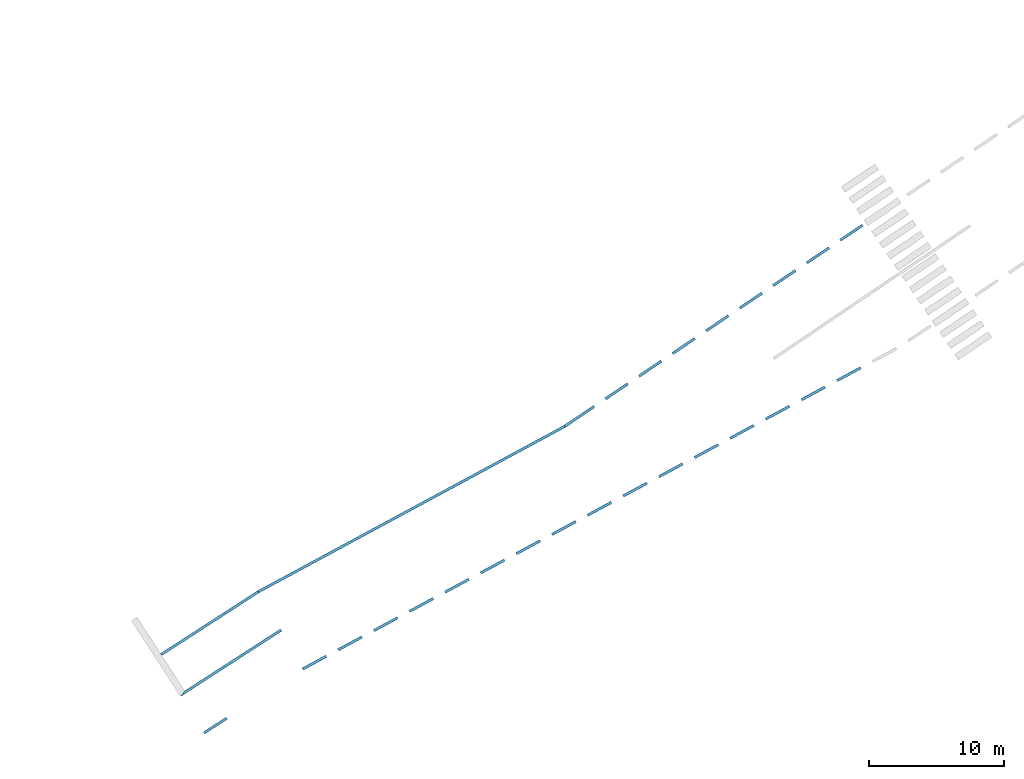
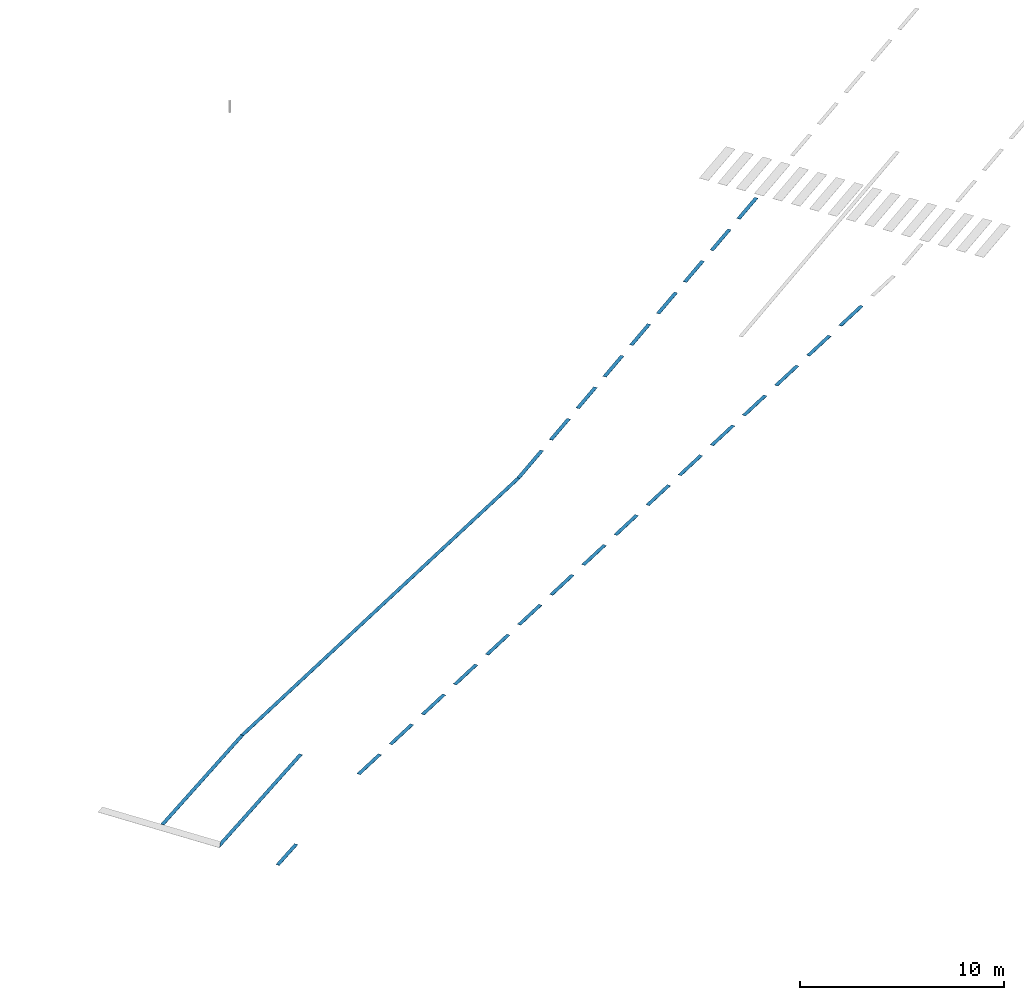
# One storey, part 55 of 157: 29 walls.
"""IFC2X3 building model written with IfcOpenShell, lengths in millimetres."""

from ifc_helpers import new_model, entity, si_unit, converted_unit, derived_unit, direction, frame, frame_2d, origin, origin_2d_with_axis, place, context, subcontext, project, spatial, polyline, rectangle, outline, extrude, material, type_object, element, save


model = new_model("IFC2X3")

# Units and contexts
model_context = context("Model", 3, precision=0.01, world=origin(), true_north=direction((6.123031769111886e-17, 1.0)))
body_context = subcontext(model_context, "Body", "Model", "MODEL_VIEW")
ifc_project = project(units=[si_unit("LENGTHUNIT", "METRE", prefix="MILLI"), si_unit("AREAUNIT", "SQUARE_METRE"), si_unit("VOLUMEUNIT", "CUBIC_METRE"), converted_unit("PLANEANGLEUNIT", "DEGREE", entity("IfcRatioMeasure", 0.017453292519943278), si_unit("PLANEANGLEUNIT", "RADIAN"), dimensions=[0, 0, 0, 0, 0, 0, 0]), si_unit("MASSUNIT", "GRAM", prefix="KILO"), derived_unit("MASSDENSITYUNIT", [(si_unit("MASSUNIT", "GRAM", prefix="KILO"), 1), (si_unit("LENGTHUNIT", "METRE"), -3)]), derived_unit("MOMENTOFINERTIAUNIT", [(si_unit("LENGTHUNIT", "METRE"), 4)]), si_unit("TIMEUNIT", "SECOND"), si_unit("FREQUENCYUNIT", "HERTZ"), si_unit("THERMODYNAMICTEMPERATUREUNIT", "DEGREE_CELSIUS"), derived_unit("THERMALTRANSMITTANCEUNIT", [(si_unit("MASSUNIT", "GRAM", prefix="KILO"), 1), (si_unit("THERMODYNAMICTEMPERATUREUNIT", "KELVIN"), -1), (si_unit("TIMEUNIT", "SECOND"), -3)]), derived_unit("THERMALCONDUCTANCEUNIT", [(si_unit("MASSUNIT", "GRAM", prefix="KILO"), 1), (si_unit("LENGTHUNIT", "METRE"), 1), (si_unit("THERMODYNAMICTEMPERATUREUNIT", "KELVIN"), -1), (si_unit("TIMEUNIT", "SECOND"), -3)]), derived_unit("VOLUMETRICFLOWRATEUNIT", [(si_unit("LENGTHUNIT", "METRE"), 3), (si_unit("TIMEUNIT", "SECOND"), -1)]), derived_unit("MASSFLOWRATEUNIT", [(si_unit("MASSUNIT", "GRAM", prefix="KILO"), 1), (si_unit("TIMEUNIT", "SECOND"), -1)]), derived_unit("ROTATIONALFREQUENCYUNIT", [(si_unit("TIMEUNIT", "SECOND"), -1)]), si_unit("ELECTRICCURRENTUNIT", "AMPERE"), si_unit("ELECTRICVOLTAGEUNIT", "VOLT"), si_unit("POWERUNIT", "WATT"), converted_unit("FORCEUNIT", "KIP", entity("IfcRatioMeasure", 2.088543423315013e-05), si_unit("FORCEUNIT", "NEWTON"), dimensions=[1, 1, -2, 0, 0, 0, 0]), si_unit("ILLUMINANCEUNIT", "LUX"), si_unit("LUMINOUSFLUXUNIT", "LUMEN"), si_unit("LUMINOUSINTENSITYUNIT", "CANDELA"), derived_unit("USERDEFINED", [(si_unit("MASSUNIT", "GRAM", prefix="KILO"), -1), (si_unit("LENGTHUNIT", "METRE"), -2), (si_unit("TIMEUNIT", "SECOND"), 3), (si_unit("LUMINOUSFLUXUNIT", "LUMEN"), 1)]), derived_unit("USERDEFINED", [(si_unit("MASSUNIT", "GRAM", prefix="KILO"), 1), (si_unit("LENGTHUNIT", "METRE"), 3), (si_unit("TIMEUNIT", "SECOND"), -3), (si_unit("ELECTRICCURRENTUNIT", "AMPERE"), -2)]), derived_unit("USERDEFINED", [(si_unit("LENGTHUNIT", "METRE"), 2), (si_unit("TIMEUNIT", "SECOND"), -2)]), derived_unit("SOUNDPOWERUNIT", [(si_unit("MASSUNIT", "GRAM", prefix="KILO"), 1), (si_unit("LENGTHUNIT", "METRE"), 2), (si_unit("TIMEUNIT", "SECOND"), -3)]), derived_unit("SOUNDPRESSUREUNIT", [(si_unit("MASSUNIT", "GRAM", prefix="KILO"), 1), (si_unit("LENGTHUNIT", "METRE"), -1), (si_unit("TIMEUNIT", "SECOND"), -2)]), derived_unit("LINEARVELOCITYUNIT", [(si_unit("LENGTHUNIT", "METRE"), 1), (si_unit("TIMEUNIT", "SECOND"), -1)]), si_unit("PRESSUREUNIT", "PASCAL"), derived_unit("USERDEFINED", [(si_unit("LENGTHUNIT", "METRE"), -2), (si_unit("MASSUNIT", "GRAM", prefix="KILO"), 1), (si_unit("TIMEUNIT", "SECOND"), -2)]), derived_unit("LINEARFORCEUNIT", [(si_unit("MASSUNIT", "GRAM", prefix="KILO"), 1), (si_unit("LENGTHUNIT", "METRE"), 1), (si_unit("TIMEUNIT", "SECOND"), -2), (si_unit("LENGTHUNIT", "METRE"), -1)]), derived_unit("PLANARFORCEUNIT", [(si_unit("MASSUNIT", "GRAM", prefix="KILO"), 1), (si_unit("LENGTHUNIT", "METRE"), 1), (si_unit("TIMEUNIT", "SECOND"), -2), (si_unit("LENGTHUNIT", "METRE"), -2)]), derived_unit("SPECIFICHEATCAPACITYUNIT", [(si_unit("LENGTHUNIT", "METRE"), 2), (si_unit("TIMEUNIT", "SECOND"), -2), (si_unit("THERMODYNAMICTEMPERATUREUNIT", "KELVIN"), -1)]), derived_unit("VAPORPERMEABILITYUNIT", [(si_unit("TIMEUNIT", "SECOND"), 1), (si_unit("LENGTHUNIT", "METRE"), -1)]), derived_unit("DYNAMICVISCOSITYUNIT", [(si_unit("MASSUNIT", "GRAM", prefix="KILO"), 1), (si_unit("LENGTHUNIT", "METRE"), -1), (si_unit("TIMEUNIT", "SECOND"), -1)]), derived_unit("THERMALEXPANSIONCOEFFICIENTUNIT", [(si_unit("THERMODYNAMICTEMPERATUREUNIT", "KELVIN"), -1)])], contexts=[model_context])

# Site, building, storey
site_placement = place(None, frame((0.0, 0.0, 0.0), z_axis=(0.0, 0.0, 1.0), x_axis=(0.8191520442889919, 0.5735764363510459, 0.0)))
site = spatial("IfcSite", under=ifc_project, at=site_placement, Name="Default", CompositionType="ELEMENT")
building_placement = place(site_placement, origin())
building = spatial("IfcBuilding", under=site, at=building_placement, CompositionType="ELEMENT")
storey_placement = place(building_placement, origin())
storey = spatial("IfcBuildingStorey", under=building, at=storey_placement, Name="1.EG +0.00", CompositionType="ELEMENT", Elevation=-4.331468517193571e-12)

# Walls
ifc_material = material(Name="road_markirovka")
wall_type_1 = type_object("IfcWallType", Name="81", PredefinedType="NOTDEFINED", material=ifc_material)
wall_1_placement = place(storey_placement, frame((-214993.52547149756, -157434.5092369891, 350.0)))
element("IfcWall", 1, at=wall_1_placement, inside=storey, type_object=wall_type_1, material=ifc_material, Name="81 203403:81 203403", ObjectType="81 203403:81 203403", context=body_context, shape_type="SweptSolid", body=[
    extrude(rectangle(XDim=199.9999999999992, YDim=2000.0000000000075, at=frame_2d((-1.7955414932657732e-11, 1.659827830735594e-11), x_axis=(1.0, 0.0))), frame((1003.0128539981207, 136.89338556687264, 0.0), z_axis=(0.0, 0.0, 1.0), x_axis=(0.03696171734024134, 0.9993166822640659, 0.0)), (0.0, 0.0, 1.0), 9.999999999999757),
])
wall_type_2 = type_object("IfcWallType", Name="81", PredefinedType="NOTDEFINED", material=ifc_material)
wall_2_placement = place(storey_placement, frame((-194376.58890193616, -159292.89680651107, 350.0)))
element("IfcWall", 2, at=wall_2_placement, inside=storey, type_object=wall_type_2, material=ifc_material, Name="81 203404:81 203404", ObjectType="81 203404:81 203404", context=body_context, shape_type="SweptSolid", body=[
    extrude(rectangle(XDim=200.00000000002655, YDim=1999.9999999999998, at=frame_2d((-1.7209345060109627e-11, -1.9895196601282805e-12), x_axis=(1.0, 0.0))), frame((1004.8551015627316, 214.97450983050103, 0.0), z_axis=(0.0, 0.0, 1.0), x_axis=(0.11564545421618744, 0.9932905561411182, 0.0)), (0.0, 0.0, 1.0), 9.999999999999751),
])
wall_type_3 = type_object("IfcWallType", Name="81", PredefinedType="NOTDEFINED", material=ifc_material)
wall_3_placement = place(storey_placement, frame((-203316.203907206, -158252.08771856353, 350.0)))
element("IfcWall", 3, at=wall_3_placement, inside=storey, type_object=wall_type_3, material=ifc_material, Name="81 203409:81 203409", ObjectType="81 203409:81 203409", context=body_context, shape_type="SweptSolid", body=[
    extrude(rectangle(XDim=200.00000000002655, YDim=2000.0000000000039, at=frame_2d((-3.240785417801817e-11, -2.120259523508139e-11), x_axis=(1.0, 0.0))), frame((1004.855101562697, 214.97450983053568, 0.0), z_axis=(0.0, 0.0, 1.0), x_axis=(0.11564545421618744, 0.9932905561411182, 0.0)), (0.0, 0.0, 1.0), 9.999999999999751),
])
wall_type_4 = type_object("IfcWallType", Name="81", PredefinedType="NOTDEFINED", material=ifc_material)
wall_4_placement = place(storey_placement, frame((-200336.33223878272, -158599.02408121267, 350.0)))
element("IfcWall", 4, at=wall_4_placement, inside=storey, type_object=wall_type_4, material=ifc_material, Name="81 203410:81 203410", ObjectType="81 203410:81 203410", context=body_context, shape_type="SweptSolid", body=[
    extrude(rectangle(XDim=199.9999999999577, YDim=1999.9999999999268, at=frame_2d((1.921307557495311e-11, -1.5234036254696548e-11), x_axis=(1.0, 0.0))), frame((1004.8551015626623, 214.9745098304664, 0.0), z_axis=(0.0, 0.0, 1.0), x_axis=(0.11564545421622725, 0.9932905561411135, 0.0)), (0.0, 0.0, 1.0), 9.999999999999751),
])
wall_type_5 = type_object("IfcWallType", Name="81", PredefinedType="NOTDEFINED", material=ifc_material)
wall_5_placement = place(storey_placement, frame((-206296.07557562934, -157905.15135591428, 350.0)))
element("IfcWall", 5, at=wall_5_placement, inside=storey, type_object=wall_type_5, material=ifc_material, Name="81 203413:81 203413", ObjectType="81 203413:81 203413", context=body_context, shape_type="SweptSolid", body=[
    extrude(rectangle(XDim=199.99999999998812, YDim=1999.9999999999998, at=frame_2d((-1.722355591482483e-11, -1.9895196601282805e-12), x_axis=(1.0, 0.0))), frame((1004.8551015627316, 214.97450983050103, 0.0), z_axis=(0.0, 0.0, 1.0), x_axis=(0.1156454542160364, 0.9932905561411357, 0.0)), (0.0, 0.0, 1.0), 9.999999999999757),
])
wall_type_6 = type_object("IfcWallType", Name="81", PredefinedType="NOTDEFINED", material=ifc_material)
wall_6_placement = place(storey_placement, frame((-180061.8062213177, -154128.42660105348, 350.0)))
element("IfcWall", 6, at=wall_6_placement, inside=storey, type_object=wall_type_6, material=ifc_material, Name="81 203415:81 203415", ObjectType="81 203415:81 203415", context=body_context, shape_type="SweptSolid", body=[
    extrude(outline(polyline([(-100.0, -1320.1172980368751), (100.0, -1320.117298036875), (100.0, 1315.1595721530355), (-100.0, 1325.075023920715), (-100.0, -1320.1172980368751)])), frame((1326.5703938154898, 122.204194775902, 0.0), z_axis=(0.0, 0.0, 1.0), x_axis=(0.016830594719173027, 0.9998583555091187, 0.0)), (0.0, 0.0, 1.0), 9.999999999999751),
])
wall_type_7 = type_object("IfcWallType", Name="81", PredefinedType="NOTDEFINED", material=ifc_material)
wall_7_placement = place(storey_placement, frame((-170417.98008771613, -154279.9019535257, 350.0)))
element("IfcWall", 7, at=wall_7_placement, inside=storey, type_object=wall_type_7, material=ifc_material, Name="81 203417:81 203417", ObjectType="81 203417:81 203417", context=body_context, shape_type="SweptSolid", body=[
    extrude(rectangle(XDim=199.99999999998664, YDim=1999.999999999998, at=frame_2d((-8.952838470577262e-12, 1.722355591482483e-11), x_axis=(1.0, 0.0))), frame((1001.541414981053, 116.81643027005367, 0.0), z_axis=(0.0, 0.0, 1.0), x_axis=(0.01683059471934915, 0.9998583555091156, 0.0)), (0.0, 0.0, 1.0), 9.999999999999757),
])
wall_type_8 = type_object("IfcWallType", Name="81", PredefinedType="NOTDEFINED", material=ifc_material)
wall_8_placement = place(storey_placement, frame((-167418.40502118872, -154330.3937376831, 350.0)))
element("IfcWall", 8, at=wall_8_placement, inside=storey, type_object=wall_type_8, material=ifc_material, Name="81 203419:81 203419", ObjectType="81 203419:81 203419", context=body_context, shape_type="SweptSolid", body=[
    extrude(rectangle(XDim=200.0000000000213, YDim=1999.9999999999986, at=frame_2d((8.377298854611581e-12, 1.745092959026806e-11), x_axis=(1.0, 0.0))), frame((1001.541414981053, 116.81643027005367, 0.0), z_axis=(0.0, 0.0, 1.0), x_axis=(0.01683059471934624, 0.9998583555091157, 0.0)), (0.0, 0.0, 1.0), 9.999999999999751),
])
wall_type_9 = type_object("IfcWallType", Name="81", PredefinedType="NOTDEFINED", material=ifc_material)
wall_9_placement = place(storey_placement, frame((-176417.13022077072, -154178.9183852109, 350.0)))
element("IfcWall", 9, at=wall_9_placement, inside=storey, type_object=wall_type_9, material=ifc_material, Name="81 203422:81 203422", ObjectType="81 203422:81 203422", context=body_context, shape_type="SweptSolid", body=[
    extrude(rectangle(XDim=200.00000000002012, YDim=2000.0000000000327, at=frame_2d((9.244160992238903e-12, -3.456079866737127e-11), x_axis=(1.0, 0.0))), frame((1001.5414149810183, 116.81643027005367, 0.0), z_axis=(0.0, 0.0, 1.0), x_axis=(0.01683059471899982, 0.9998583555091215, 0.0)), (0.0, 0.0, 1.0), 9.999999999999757),
])
wall_type_10 = type_object("IfcWallType", Name="81", PredefinedType="NOTDEFINED", material=ifc_material)
wall_10_placement = place(storey_placement, frame((-173417.55515424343, -154229.41016936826, 350.0)))
element("IfcWall", 10, at=wall_10_placement, inside=storey, type_object=wall_type_10, material=ifc_material, Name="81 203423:81 203423", ObjectType="81 203423:81 203423", context=body_context, shape_type="SweptSolid", body=[
    extrude(rectangle(XDim=199.99999999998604, YDim=1999.999999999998, at=frame_2d((-2.913225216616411e-13, 1.7337242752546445e-11), x_axis=(1.0, 0.0))), frame((1001.541414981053, 116.81643027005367, 0.0), z_axis=(0.0, 0.0, 1.0), x_axis=(0.016830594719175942, 0.9998583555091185, 0.0)), (0.0, 0.0, 1.0), 9.999999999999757),
])
wall_type_11 = type_object("IfcWallType", Name="81", PredefinedType="NOTDEFINED", material=ifc_material)
wall_11_placement = place(storey_placement, frame((-170537.61555454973, -162068.38770770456, 350.0)))
element("IfcWall", 11, at=wall_11_placement, inside=storey, type_object=wall_type_11, material=ifc_material, Name="81 203426:81 203426", ObjectType="81 203426:81 203426", context=body_context, shape_type="SweptSolid", body=[
    extrude(rectangle(XDim=199.99999999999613, YDim=1999.9999999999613, at=frame_2d((1.7209345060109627e-11, 1.9326762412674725e-12), x_axis=(1.0, 0.0))), frame((1004.855101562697, 214.9745098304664, 0.0), z_axis=(0.0, 0.0, 1.0), x_axis=(0.11564545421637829, 0.9932905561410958, 0.0)), (0.0, 0.0, 1.0), 9.999999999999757),
])
wall_type_12 = type_object("IfcWallType", Name="81", PredefinedType="NOTDEFINED", material=ifc_material)
wall_12_placement = place(storey_placement, frame((-197356.46057035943, -158945.96044386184, 350.0)))
element("IfcWall", 12, at=wall_12_placement, inside=storey, type_object=wall_type_12, material=ifc_material, Name="81 203436:81 203436", ObjectType="81 203436:81 203436", context=body_context, shape_type="SweptSolid", body=[
    extrude(rectangle(XDim=199.9999999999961, YDim=1999.9999999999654, at=frame_2d((-2.120970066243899e-11, 3.2457592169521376e-11), x_axis=(1.0, 0.0))), frame((1004.8551015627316, 214.97450983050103, 0.0), z_axis=(0.0, 0.0, 1.0), x_axis=(0.11564545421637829, 0.9932905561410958, 0.0)), (0.0, 0.0, 1.0), 9.999999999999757),
])
wall_type_13 = type_object("IfcWallType", Name="81", PredefinedType="NOTDEFINED", material=ifc_material)
wall_13_placement = place(storey_placement, frame((-191396.71723351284, -159639.83316916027, 350.0)))
element("IfcWall", 13, at=wall_13_placement, inside=storey, type_object=wall_type_13, material=ifc_material, Name="81 203447:81 203447", ObjectType="81 203447:81 203447", context=body_context, shape_type="SweptSolid", body=[
    extrude(rectangle(XDim=200.00000000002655, YDim=1999.9999999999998, at=frame_2d((-1.7209345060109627e-11, -1.9895196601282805e-12), x_axis=(1.0, 0.0))), frame((1004.8551015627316, 214.97450983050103, 0.0), z_axis=(0.0, 0.0, 1.0), x_axis=(0.11564545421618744, 0.9932905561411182, 0.0)), (0.0, 0.0, 1.0), 9.999999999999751),
])
wall_type_14 = type_object("IfcWallType", Name="81", PredefinedType="NOTDEFINED", material=ifc_material)
wall_14_placement = place(storey_placement, frame((-188416.84556508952, -159986.76953180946, 350.0)))
element("IfcWall", 14, at=wall_14_placement, inside=storey, type_object=wall_type_14, material=ifc_material, Name="81 203449:81 203449", ObjectType="81 203449:81 203449", context=body_context, shape_type="SweptSolid", body=[
    extrude(rectangle(XDim=199.99999999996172, YDim=1999.9999999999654, at=frame_2d((-1.7209345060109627e-11, -1.9895196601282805e-12), x_axis=(1.0, 0.0))), frame((1004.855101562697, 214.97450983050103, 0.0), z_axis=(0.0, 0.0, 1.0), x_axis=(0.11564545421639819, 0.9932905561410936, 0.0)), (0.0, 0.0, 1.0), 9.999999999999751),
])
wall_type_15 = type_object("IfcWallType", Name="81", PredefinedType="NOTDEFINED", material=ifc_material)
wall_15_placement = place(storey_placement, frame((-185436.97389666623, -160333.7058944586, 350.0)))
element("IfcWall", 15, at=wall_15_placement, inside=storey, type_object=wall_type_15, material=ifc_material, Name="81 203454:81 203454", ObjectType="81 203454:81 203454", context=body_context, shape_type="SweptSolid", body=[
    extrude(rectangle(XDim=199.99999999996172, YDim=1999.999999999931, at=frame_2d((-1.921307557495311e-11, 1.517719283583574e-11), x_axis=(1.0, 0.0))), frame((1004.855101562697, 214.97450983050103, 0.0), z_axis=(0.0, 0.0, 1.0), x_axis=(0.11564545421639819, 0.9932905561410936, 0.0)), (0.0, 0.0, 1.0), 9.999999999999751),
])
wall_type_16 = type_object("IfcWallType", Name="81", PredefinedType="NOTDEFINED", material=ifc_material)
wall_16_placement = place(storey_placement, frame((-182457.10222824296, -160680.64225710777, 350.0)))
element("IfcWall", 16, at=wall_16_placement, inside=storey, type_object=wall_type_16, material=ifc_material, Name="81 203463:81 203463", ObjectType="81 203463:81 203463", context=body_context, shape_type="SweptSolid", body=[
    extrude(rectangle(XDim=199.99999999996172, YDim=1999.999999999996, at=frame_2d((1.7209345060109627e-11, 1.9895196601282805e-12), x_axis=(1.0, 0.0))), frame((1004.8551015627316, 214.9745098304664, 0.0), z_axis=(0.0, 0.0, 1.0), x_axis=(0.11564545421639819, 0.9932905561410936, 0.0)), (0.0, 0.0, 1.0), 9.999999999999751),
])
wall_type_17 = type_object("IfcWallType", Name="81", PredefinedType="NOTDEFINED", material=ifc_material)
wall_17_placement = place(storey_placement, frame((-179477.23055981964, -161027.57861975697, 350.0)))
element("IfcWall", 17, at=wall_17_placement, inside=storey, type_object=wall_type_17, material=ifc_material, Name="81 203467:81 203467", ObjectType="81 203467:81 203467", context=body_context, shape_type="SweptSolid", body=[
    extrude(rectangle(XDim=199.99999999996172, YDim=1999.9999999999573, at=frame_2d((1.921307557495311e-11, -1.517719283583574e-11), x_axis=(1.0, 0.0))), frame((1004.855101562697, 214.9745098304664, 0.0), z_axis=(0.0, 0.0, 1.0), x_axis=(0.11564545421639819, 0.9932905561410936, 0.0)), (0.0, 0.0, 1.0), 9.999999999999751),
])
wall_type_18 = type_object("IfcWallType", Name="81", PredefinedType="NOTDEFINED", material=ifc_material)
wall_18_placement = place(storey_placement, frame((-176497.35889139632, -161374.51498240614, 350.0)))
element("IfcWall", 18, at=wall_18_placement, inside=storey, type_object=wall_type_18, material=ifc_material, Name="81 203468:81 203468", ObjectType="81 203468:81 203468", context=body_context, shape_type="SweptSolid", body=[
    extrude(rectangle(XDim=199.99999999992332, YDim=1999.9999999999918, at=frame_2d((1.5198509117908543e-11, 1.921307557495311e-11), x_axis=(1.0, 0.0))), frame((1004.8551015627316, 214.9745098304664, 0.0), z_axis=(0.0, 0.0, 1.0), x_axis=(0.11564545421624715, 0.9932905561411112, 0.0)), (0.0, 0.0, 1.0), 9.999999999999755),
])
wall_type_19 = type_object("IfcWallType", Name="81", PredefinedType="NOTDEFINED", material=ifc_material)
wall_19_placement = place(storey_placement, frame((-205688.99836724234, -154083.90644112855, 350.0)))
element("IfcWall", 19, at=wall_19_placement, inside=storey, type_object=wall_type_19, material=ifc_material, Name="81 203471:81 203471", ObjectType="81 203471:81 203471", context=body_context, shape_type="SweptSolid", body=[
    extrude(outline(polyline([(-738.867325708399, -12883.820542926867), (-538.6216860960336, -12883.820542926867), (738.8173664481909, 12882.812837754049), (538.6716453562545, 12884.828248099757), (-738.867325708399, -12883.820542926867)])), frame((12820.73724277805, 1591.6876329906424, 0.0), z_axis=(0.0, 0.0, 1.0), x_axis=(0.06631937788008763, 0.9977984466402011, 0.0)), (0.0, 0.0, 1.0), 9.999999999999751),
])
wall_type_20 = type_object("IfcWallType", Name="81", PredefinedType="NOTDEFINED", material=ifc_material)
wall_20_placement = place(storey_placement, frame((-167557.74388612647, -162415.32407035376, 350.0)))
element("IfcWall", 20, at=wall_20_placement, inside=storey, type_object=wall_type_20, material=ifc_material, Name="81 203475:81 203475", ObjectType="81 203475:81 203475", context=body_context, shape_type="SweptSolid", body=[
    extrude(rectangle(XDim=199.99999999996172, YDim=1999.999999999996, at=frame_2d((1.7209345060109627e-11, 1.9895196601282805e-12), x_axis=(1.0, 0.0))), frame((1004.8551015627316, 214.9745098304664, 0.0), z_axis=(0.0, 0.0, 1.0), x_axis=(0.11564545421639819, 0.9932905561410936, 0.0)), (0.0, 0.0, 1.0), 9.999999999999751),
])
wall_type_21 = type_object("IfcWallType", Name="81", PredefinedType="NOTDEFINED", material=ifc_material)
wall_21_placement = place(storey_placement, frame((-214745.8819653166, -151100.21928364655, 350.0)))
element("IfcWall", 21, at=wall_21_placement, inside=storey, type_object=wall_type_21, material=ifc_material, Name="81 203478:81 203478", ObjectType="81 203478:81 203478", context=body_context, shape_type="SweptSolid", body=[
    extrude(outline(polyline([(69.0099379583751, -4282.024864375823), (269.1658060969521, -4282.024864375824), (-69.16574540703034, 4285.97057237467), (-269.00999864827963, 4278.079156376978), (69.0099379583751, -4282.024864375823)])), frame((4782.09209785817, 258.18005413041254, 0.0), z_axis=(0.0, 0.0, 1.0), x_axis=(0.07636305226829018, 0.9970800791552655, 0.0)), (0.0, 0.0, 1.0), 9.999999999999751),
])
wall_type_22 = type_object("IfcWallType", Name="81", PredefinedType="NOTDEFINED", material=ifc_material)
wall_22_placement = place(storey_placement, frame((-161598.00054927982, -163109.1967956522, 350.0)))
element("IfcWall", 22, at=wall_22_placement, inside=storey, type_object=wall_type_22, material=ifc_material, Name="81 203551:81 203551", ObjectType="81 203551:81 203551", context=body_context, shape_type="SweptSolid", body=[
    extrude(rectangle(XDim=199.99999999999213, YDim=2000.0000000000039, at=frame_2d((1.5198509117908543e-11, 1.91562321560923e-11), x_axis=(1.0, 0.0))), frame((1004.8551015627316, 214.97450983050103, 0.0), z_axis=(0.0, 0.0, 1.0), x_axis=(0.11564545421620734, 0.9932905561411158, 0.0)), (0.0, 0.0, 1.0), 9.999999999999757),
])
wall_type_23 = type_object("IfcWallType", Name="81", PredefinedType="NOTDEFINED", material=ifc_material)
wall_23_placement = place(storey_placement, frame((-173517.48722297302, -161721.4513450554, 350.0)))
element("IfcWall", 23, at=wall_23_placement, inside=storey, type_object=wall_type_23, material=ifc_material, Name="81 203555:81 203555", ObjectType="81 203555:81 203555", context=body_context, shape_type="SweptSolid", body=[
    extrude(rectangle(XDim=199.99999999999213, YDim=1999.9999999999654, at=origin_2d_with_axis()), frame((1004.855101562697, 214.97450983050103, 0.0), z_axis=(0.0, 0.0, 1.0), x_axis=(0.11564545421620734, 0.9932905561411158, 0.0)), (0.0, 0.0, 1.0), 9.999999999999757),
])
wall_type_24 = type_object("IfcWallType", Name="81", PredefinedType="NOTDEFINED", material=ifc_material)
wall_24_placement = place(storey_placement, frame((-164577.87221770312, -162762.26043300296, 350.0)))
element("IfcWall", 24, at=wall_24_placement, inside=storey, type_object=wall_type_24, material=ifc_material, Name="81 203556:81 203556", ObjectType="81 203556:81 203556", context=body_context, shape_type="SweptSolid", body=[
    extrude(rectangle(XDim=199.9999999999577, YDim=1999.999999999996, at=frame_2d((1.7209345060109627e-11, 1.9895196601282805e-12), x_axis=(1.0, 0.0))), frame((1004.8551015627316, 214.9745098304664, 0.0), z_axis=(0.0, 0.0, 1.0), x_axis=(0.11564545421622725, 0.9932905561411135, 0.0)), (0.0, 0.0, 1.0), 9.999999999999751),
])
wall_type_25 = type_object("IfcWallType", Name="81", PredefinedType="NOTDEFINED", material=ifc_material)
wall_25_placement = place(storey_placement, frame((-155420.10475507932, -154532.36087431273, 350.0)))
element("IfcWall", 25, at=wall_25_placement, inside=storey, type_object=wall_type_25, material=ifc_material, Name="81 203659:81 203659", ObjectType="81 203659:81 203659", context=body_context, shape_type="SweptSolid", body=[
    extrude(rectangle(XDim=200.00000000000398, YDim=1999.9999999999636, at=origin_2d_with_axis()), frame((1001.5414149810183, 116.81643027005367, 0.0), z_axis=(0.0, 0.0, 1.0), x_axis=(0.016830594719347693, 0.9998583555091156, 0.0)), (0.0, 0.0, 1.0), 9.999999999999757),
])
wall_type_26 = type_object("IfcWallType", Name="81", PredefinedType="NOTDEFINED", material=ifc_material)
wall_26_placement = place(storey_placement, frame((-158419.67982160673, -154481.8690901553, 350.0)))
element("IfcWall", 26, at=wall_26_placement, inside=storey, type_object=wall_type_26, material=ifc_material, Name="81 203663:81 203663", ObjectType="81 203663:81 203663", context=body_context, shape_type="SweptSolid", body=[
    extrude(rectangle(XDim=200.0000000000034, YDim=1999.9999999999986, at=origin_2d_with_axis()), frame((1001.541414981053, 116.81643027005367, 0.0), z_axis=(0.0, 0.0, 1.0), x_axis=(0.016830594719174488, 0.9998583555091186, 0.0)), (0.0, 0.0, 1.0), 9.999999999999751),
])
wall_type_27 = type_object("IfcWallType", Name="81", PredefinedType="NOTDEFINED", material=ifc_material)
wall_27_placement = place(storey_placement, frame((-161419.25488813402, -154431.37730599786, 350.0)))
element("IfcWall", 27, at=wall_27_placement, inside=storey, type_object=wall_type_27, material=ifc_material, Name="81 203664:81 203664", ObjectType="81 203664:81 203664", context=body_context, shape_type="SweptSolid", body=[
    extrude(rectangle(XDim=199.99999999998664, YDim=1999.9999999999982, at=frame_2d((8.377298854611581e-12, 1.745092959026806e-11), x_axis=(1.0, 0.0))), frame((1001.541414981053, 116.81643027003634, 0.0), z_axis=(0.0, 0.0, 1.0), x_axis=(0.01683059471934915, 0.9998583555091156, 0.0)), (0.0, 0.0, 1.0), 9.999999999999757),
])
wall_type_28 = type_object("IfcWallType", Name="81", PredefinedType="NOTDEFINED", material=ifc_material)
wall_28_placement = place(storey_placement, frame((-164418.8299546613, -154380.8855218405, 350.0)))
element("IfcWall", 28, at=wall_28_placement, inside=storey, type_object=wall_type_28, material=ifc_material, Name="81 203675:81 203675", ObjectType="81 203675:81 203675", context=body_context, shape_type="SweptSolid", body=[
    extrude(rectangle(XDim=200.00000000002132, YDim=1999.9999999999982, at=frame_2d((-2.6268764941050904e-11, 1.693933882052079e-11), x_axis=(1.0, 0.0))), frame((1001.541414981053, 116.816430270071, 0.0), z_axis=(0.0, 0.0, 1.0), x_axis=(0.01683059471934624, 0.9998583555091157, 0.0)), (0.0, 0.0, 1.0), 9.999999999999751),
])
wall_type_29 = type_object("IfcWallType", Name="81", PredefinedType="NOTDEFINED", material=ifc_material)
wall_29_placement = place(storey_placement, frame((-214871.55180427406, -154393.35442035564, 350.0)))
element("IfcWall", 29, at=wall_29_placement, inside=storey, type_object=wall_type_29, material=ifc_material, Name="81 206543:81 206543", ObjectType="81 206543:81 206543", context=body_context, shape_type="SweptSolid", body=[
    extrude(outline(polyline([(-100.0, -4346.026961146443), (100.0, -4346.026961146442), (100.0, 4096.026961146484), (-100.0, 4596.026961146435), (-100.0, -4346.026961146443)])), frame((4596.582586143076, 260.5682883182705, 0.0), z_axis=(0.0, 0.0, 1.0), x_axis=(0.03696171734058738, 0.9993166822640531, 0.0)), (0.0, 0.0, 1.0), 9.999999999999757),
])

save(model, "model.ifc")
